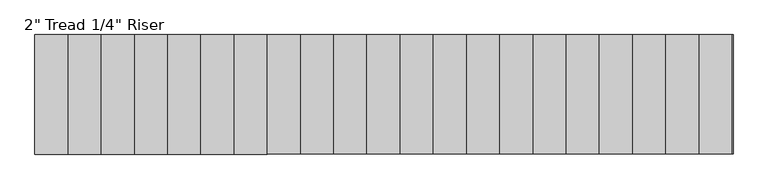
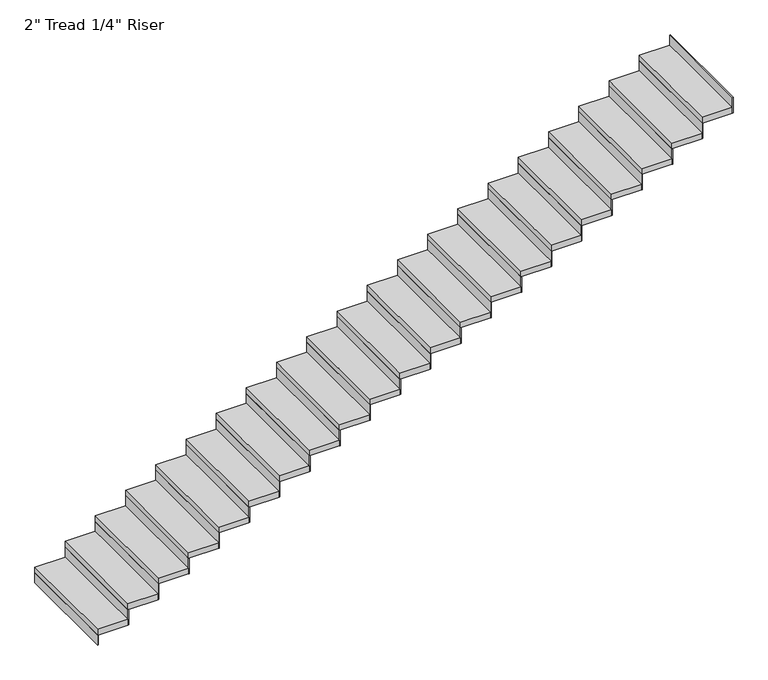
"""IFC4 building model written with IfcOpenShell, lengths in millimetres: stair flight geometry."""

from ifc_helpers import new_model, si_unit, frame, origin, origin_with_axes, place, context, project, spatial, polyline, outline, extrude, source, transform, mapped, element, save


def stair_flight_a4d97b63(model_context):
    return source(origin(), model_context, "Body", "SweptSolid", [
        extrude(outline(polyline([(35788.4072927, -2400.7855758), (35782.0572927, -2400.7855758), (35782.0572927, -1486.3855758), (35788.4072927, -1486.3855758), (35788.4072927, -2400.7855758)])), origin_with_axes(), (0.0, 0.0, 1.0), 87.7454545),
        extrude(outline(polyline([(36036.0572927, -1486.3855758), (36036.0572927, -2400.7855758), (35782.0572927, -2400.7855758), (35782.0572927, -1486.3855758), (36036.0572927, -1486.3855758)])), frame((0.0, 0.0, 87.7454545), z_axis=(0.0, 0.0, 1.0), x_axis=(1.0, 0.0, 0.0)), (0.0, 0.0, 1.0), 50.8),
        extrude(outline(polyline([(36042.4072927, -2400.7855758), (36036.0572927, -2400.7855758), (36036.0572927, -1486.3855758), (36042.4072927, -1486.3855758), (36042.4072927, -2400.7855758)])), frame((0.0, 0.0, 87.7454545), z_axis=(0.0, 0.0, 1.0), x_axis=(1.0, 0.0, 0.0)), (0.0, 0.0, 1.0), 138.5454545),
        extrude(outline(polyline([(36290.0572927, -1486.3855758), (36290.0572927, -2400.7855758), (36036.0572927, -2400.7855758), (36036.0572927, -1486.3855758), (36290.0572927, -1486.3855758)])), frame((0.0, 0.0, 226.2909091), z_axis=(0.0, 0.0, 1.0), x_axis=(1.0, 0.0, 0.0)), (0.0, 0.0, 1.0), 50.8),
        extrude(outline(polyline([(36296.4072927, -2400.7855758), (36290.0572927, -2400.7855758), (36290.0572927, -1486.3855758), (36296.4072927, -1486.3855758), (36296.4072927, -2400.7855758)])), frame((0.0, 0.0, 226.2909091), z_axis=(0.0, 0.0, 1.0), x_axis=(1.0, 0.0, 0.0)), (0.0, 0.0, 1.0), 138.5454545),
        extrude(outline(polyline([(36544.0572927, -1486.3855758), (36544.0572927, -2400.7855758), (36290.0572927, -2400.7855758), (36290.0572927, -1486.3855758), (36544.0572927, -1486.3855758)])), frame((0.0, 0.0, 364.8363636), z_axis=(0.0, 0.0, 1.0), x_axis=(1.0, 0.0, 0.0)), (0.0, 0.0, 1.0), 50.8),
        extrude(outline(polyline([(36550.4072927, -2400.7855758), (36544.0572927, -2400.7855758), (36544.0572927, -1486.3855758), (36550.4072927, -1486.3855758), (36550.4072927, -2400.7855758)])), frame((0.0, 0.0, 364.8363636), z_axis=(0.0, 0.0, 1.0), x_axis=(1.0, 0.0, 0.0)), (0.0, 0.0, 1.0), 138.5454545),
        extrude(outline(polyline([(36798.0572927, -1486.3855758), (36798.0572927, -2400.7855758), (36544.0572927, -2400.7855758), (36544.0572927, -1486.3855758), (36798.0572927, -1486.3855758)])), frame((0.0, 0.0, 503.3818182), z_axis=(0.0, 0.0, 1.0), x_axis=(1.0, 0.0, 0.0)), (0.0, 0.0, 1.0), 50.8),
        extrude(outline(polyline([(36804.4072927, -2400.7855758), (36798.0572927, -2400.7855758), (36798.0572927, -1486.3855758), (36804.4072927, -1486.3855758), (36804.4072927, -2400.7855758)])), frame((0.0, 0.0, 503.3818182), z_axis=(0.0, 0.0, 1.0), x_axis=(1.0, 0.0, 0.0)), (0.0, 0.0, 1.0), 138.5454545),
        extrude(outline(polyline([(37052.0572927, -1486.3855758), (37052.0572927, -2400.7855758), (36798.0572927, -2400.7855758), (36798.0572927, -1486.3855758), (37052.0572927, -1486.3855758)])), frame((0.0, 0.0, 641.9272727), z_axis=(0.0, 0.0, 1.0), x_axis=(1.0, 0.0, 0.0)), (0.0, 0.0, 1.0), 50.8),
        extrude(outline(polyline([(37058.4072927, -2400.7855758), (37052.0572927, -2400.7855758), (37052.0572927, -1486.3855758), (37058.4072927, -1486.3855758), (37058.4072927, -2400.7855758)])), frame((0.0, 0.0, 641.9272727), z_axis=(0.0, 0.0, 1.0), x_axis=(1.0, 0.0, 0.0)), (0.0, 0.0, 1.0), 138.5454545),
        extrude(outline(polyline([(37306.0572927, -1486.3855758), (37306.0572927, -2400.7855758), (37052.0572927, -2400.7855758), (37052.0572927, -1486.3855758), (37306.0572927, -1486.3855758)])), frame((0.0, 0.0, 780.4727273), z_axis=(0.0, 0.0, 1.0), x_axis=(1.0, 0.0, 0.0)), (0.0, 0.0, 1.0), 50.8),
        extrude(outline(polyline([(37312.4072927, -2400.7855758), (37306.0572927, -2400.7855758), (37306.0572927, -1486.3855758), (37312.4072927, -1486.3855758), (37312.4072927, -2400.7855758)])), frame((0.0, 0.0, 780.4727273), z_axis=(0.0, 0.0, 1.0), x_axis=(1.0, 0.0, 0.0)), (0.0, 0.0, 1.0), 138.5454545),
        extrude(outline(polyline([(37560.0572927, -1486.3855758), (37560.0572927, -2400.7855758), (37306.0572927, -2400.7855758), (37306.0572927, -1486.3855758), (37560.0572927, -1486.3855758)])), frame((0.0, 0.0, 919.0181818), z_axis=(0.0, 0.0, 1.0), x_axis=(1.0, 0.0, 0.0)), (0.0, 0.0, 1.0), 50.8),
        extrude(outline(polyline([(37566.4072927, -2400.7855758), (37560.0572927, -2400.7855758), (37560.0572927, -1486.3855758), (37566.4072927, -1486.3855758), (37566.4072927, -2400.7855758)])), frame((0.0, 0.0, 919.0181818), z_axis=(0.0, 0.0, 1.0), x_axis=(1.0, 0.0, 0.0)), (0.0, 0.0, 1.0), 138.5454545),
        extrude(outline(polyline([(37814.0572927, -1486.3855758), (37814.0572927, -2400.7855758), (37560.0572927, -2400.7855758), (37560.0572927, -1486.3855758), (37814.0572927, -1486.3855758)])), frame((0.0, 0.0, 1057.5636364), z_axis=(0.0, 0.0, 1.0), x_axis=(1.0, 0.0, 0.0)), (0.0, 0.0, 1.0), 50.8),
        extrude(outline(polyline([(37820.4072927, -2400.7855758), (37814.0572927, -2400.7855758), (37814.0572927, -1486.3855758), (37820.4072927, -1486.3855758), (37820.4072927, -2400.7855758)])), frame((0.0, 0.0, 1057.5636364), z_axis=(0.0, 0.0, 1.0), x_axis=(1.0, 0.0, 0.0)), (0.0, 0.0, 1.0), 138.5454545),
        extrude(outline(polyline([(38068.0572927, -1486.3855758), (38068.0572927, -2400.7855758), (37814.0572927, -2400.7855758), (37814.0572927, -1486.3855758), (38068.0572927, -1486.3855758)])), frame((0.0, 0.0, 1196.1090909), z_axis=(0.0, 0.0, 1.0), x_axis=(1.0, 0.0, 0.0)), (0.0, 0.0, 1.0), 50.8),
        extrude(outline(polyline([(38074.4072927, -2400.7855758), (38068.0572927, -2400.7855758), (38068.0572927, -1486.3855758), (38074.4072927, -1486.3855758), (38074.4072927, -2400.7855758)])), frame((0.0, 0.0, 1196.1090909), z_axis=(0.0, 0.0, 1.0), x_axis=(1.0, 0.0, 0.0)), (0.0, 0.0, 1.0), 138.5454545),
        extrude(outline(polyline([(38322.0572927, -1486.3855758), (38322.0572927, -2400.7855758), (38068.0572927, -2400.7855758), (38068.0572927, -1486.3855758), (38322.0572927, -1486.3855758)])), frame((0.0, 0.0, 1334.6545455), z_axis=(0.0, 0.0, 1.0), x_axis=(1.0, 0.0, 0.0)), (0.0, 0.0, 1.0), 50.8),
        extrude(outline(polyline([(38328.4072927, -2400.7855758), (38322.0572927, -2400.7855758), (38322.0572927, -1486.3855758), (38328.4072927, -1486.3855758), (38328.4072927, -2400.7855758)])), frame((0.0, 0.0, 1334.6545455), z_axis=(0.0, 0.0, 1.0), x_axis=(1.0, 0.0, 0.0)), (0.0, 0.0, 1.0), 138.5454545),
        extrude(outline(polyline([(38576.0572927, -1486.3855758), (38576.0572927, -2400.7855758), (38322.0572927, -2400.7855758), (38322.0572927, -1486.3855758), (38576.0572927, -1486.3855758)])), frame((0.0, 0.0, 1473.2), z_axis=(0.0, 0.0, 1.0), x_axis=(1.0, 0.0, 0.0)), (0.0, 0.0, 1.0), 50.8),
        extrude(outline(polyline([(38582.4072927, -2400.7855758), (38576.0572927, -2400.7855758), (38576.0572927, -1486.3855758), (38582.4072927, -1486.3855758), (38582.4072927, -2400.7855758)])), frame((0.0, 0.0, 1473.2), z_axis=(0.0, 0.0, 1.0), x_axis=(1.0, 0.0, 0.0)), (0.0, 0.0, 1.0), 138.5454545),
        extrude(outline(polyline([(38830.0572927, -1486.3855758), (38830.0572927, -2400.7855758), (38576.0572927, -2400.7855758), (38576.0572927, -1486.3855758), (38830.0572927, -1486.3855758)])), frame((0.0, 0.0, 1611.7454545), z_axis=(0.0, 0.0, 1.0), x_axis=(1.0, 0.0, 0.0)), (0.0, 0.0, 1.0), 50.8),
        extrude(outline(polyline([(38836.4072927, -2400.7855758), (38830.0572927, -2400.7855758), (38830.0572927, -1486.3855758), (38836.4072927, -1486.3855758), (38836.4072927, -2400.7855758)])), frame((0.0, 0.0, 1611.7454545), z_axis=(0.0, 0.0, 1.0), x_axis=(1.0, 0.0, 0.0)), (0.0, 0.0, 1.0), 138.5454545),
        extrude(outline(polyline([(39084.0572927, -1486.3855758), (39084.0572927, -2400.7855758), (38830.0572927, -2400.7855758), (38830.0572927, -1486.3855758), (39084.0572927, -1486.3855758)])), frame((0.0, 0.0, 1750.2909091), z_axis=(0.0, 0.0, 1.0), x_axis=(1.0, 0.0, 0.0)), (0.0, 0.0, 1.0), 50.8),
        extrude(outline(polyline([(39090.4072927, -2400.7855758), (39084.0572927, -2400.7855758), (39084.0572927, -1486.3855758), (39090.4072927, -1486.3855758), (39090.4072927, -2400.7855758)])), frame((0.0, 0.0, 1750.2909091), z_axis=(0.0, 0.0, 1.0), x_axis=(1.0, 0.0, 0.0)), (0.0, 0.0, 1.0), 138.5454545),
        extrude(outline(polyline([(39338.0572927, -1486.3855758), (39338.0572927, -2400.7855758), (39084.0572927, -2400.7855758), (39084.0572927, -1486.3855758), (39338.0572927, -1486.3855758)])), frame((0.0, 0.0, 1888.8363636), z_axis=(0.0, 0.0, 1.0), x_axis=(1.0, 0.0, 0.0)), (0.0, 0.0, 1.0), 50.8),
        extrude(outline(polyline([(39344.4072927, -2400.7855758), (39338.0572927, -2400.7855758), (39338.0572927, -1486.3855758), (39344.4072927, -1486.3855758), (39344.4072927, -2400.7855758)])), frame((0.0, 0.0, 1888.8363636), z_axis=(0.0, 0.0, 1.0), x_axis=(1.0, 0.0, 0.0)), (0.0, 0.0, 1.0), 138.5454545),
        extrude(outline(polyline([(39592.0572927, -1486.3855758), (39592.0572927, -2400.7855758), (39338.0572927, -2400.7855758), (39338.0572927, -1486.3855758), (39592.0572927, -1486.3855758)])), frame((0.0, 0.0, 2027.3818182), z_axis=(0.0, 0.0, 1.0), x_axis=(1.0, 0.0, 0.0)), (0.0, 0.0, 1.0), 50.8),
        extrude(outline(polyline([(39598.4072927, -2400.7855758), (39592.0572927, -2400.7855758), (39592.0572927, -1486.3855758), (39598.4072927, -1486.3855758), (39598.4072927, -2400.7855758)])), frame((0.0, 0.0, 2027.3818182), z_axis=(0.0, 0.0, 1.0), x_axis=(1.0, 0.0, 0.0)), (0.0, 0.0, 1.0), 138.5454545),
        extrude(outline(polyline([(39846.0572927, -1486.3855758), (39846.0572927, -2400.7855758), (39592.0572927, -2400.7855758), (39592.0572927, -1486.3855758), (39846.0572927, -1486.3855758)])), frame((0.0, 0.0, 2165.9272727), z_axis=(0.0, 0.0, 1.0), x_axis=(1.0, 0.0, 0.0)), (0.0, 0.0, 1.0), 50.8),
        extrude(outline(polyline([(39852.4072927, -2400.7855758), (39846.0572927, -2400.7855758), (39846.0572927, -1486.3855758), (39852.4072927, -1486.3855758), (39852.4072927, -2400.7855758)])), frame((0.0, 0.0, 2165.9272727), z_axis=(0.0, 0.0, 1.0), x_axis=(1.0, 0.0, 0.0)), (0.0, 0.0, 1.0), 138.5454545),
        extrude(outline(polyline([(40100.0572927, -1486.3855758), (40100.0572927, -2400.7855758), (39846.0572927, -2400.7855758), (39846.0572927, -1486.3855758), (40100.0572927, -1486.3855758)])), frame((0.0, 0.0, 2304.4727273), z_axis=(0.0, 0.0, 1.0), x_axis=(1.0, 0.0, 0.0)), (0.0, 0.0, 1.0), 50.8),
        extrude(outline(polyline([(40106.4072927, -2400.7855758), (40100.0572927, -2400.7855758), (40100.0572927, -1486.3855758), (40106.4072927, -1486.3855758), (40106.4072927, -2400.7855758)])), frame((0.0, 0.0, 2304.4727273), z_axis=(0.0, 0.0, 1.0), x_axis=(1.0, 0.0, 0.0)), (0.0, 0.0, 1.0), 138.5454545),
        extrude(outline(polyline([(40354.0572927, -1486.3855758), (40354.0572927, -2400.7855758), (40100.0572927, -2400.7855758), (40100.0572927, -1486.3855758), (40354.0572927, -1486.3855758)])), frame((0.0, 0.0, 2443.0181818), z_axis=(0.0, 0.0, 1.0), x_axis=(1.0, 0.0, 0.0)), (0.0, 0.0, 1.0), 50.8),
        extrude(outline(polyline([(40360.4072927, -2400.7855758), (40354.0572927, -2400.7855758), (40354.0572927, -1486.3855758), (40360.4072927, -1486.3855758), (40360.4072927, -2400.7855758)])), frame((0.0, 0.0, 2443.0181818), z_axis=(0.0, 0.0, 1.0), x_axis=(1.0, 0.0, 0.0)), (0.0, 0.0, 1.0), 138.5454545),
        extrude(outline(polyline([(40608.0572927, -1486.3855758), (40608.0572927, -2400.7855758), (40354.0572927, -2400.7855758), (40354.0572927, -1486.3855758), (40608.0572927, -1486.3855758)])), frame((0.0, 0.0, 2581.5636364), z_axis=(0.0, 0.0, 1.0), x_axis=(1.0, 0.0, 0.0)), (0.0, 0.0, 1.0), 50.8),
        extrude(outline(polyline([(40614.4072927, -2400.7855758), (40608.0572927, -2400.7855758), (40608.0572927, -1486.3855758), (40614.4072927, -1486.3855758), (40614.4072927, -2400.7855758)])), frame((0.0, 0.0, 2581.5636364), z_axis=(0.0, 0.0, 1.0), x_axis=(1.0, 0.0, 0.0)), (0.0, 0.0, 1.0), 138.5454545),
        extrude(outline(polyline([(40862.0572927, -1486.3855758), (40862.0572927, -2400.7855758), (40608.0572927, -2400.7855758), (40608.0572927, -1486.3855758), (40862.0572927, -1486.3855758)])), frame((0.0, 0.0, 2720.1090909), z_axis=(0.0, 0.0, 1.0), x_axis=(1.0, 0.0, 0.0)), (0.0, 0.0, 1.0), 50.8),
        extrude(outline(polyline([(40868.4072927, -2400.7855758), (40862.0572927, -2400.7855758), (40862.0572927, -1486.3855758), (40868.4072927, -1486.3855758), (40868.4072927, -2400.7855758)])), frame((0.0, 0.0, 2720.1090909), z_axis=(0.0, 0.0, 1.0), x_axis=(1.0, 0.0, 0.0)), (0.0, 0.0, 1.0), 138.5454545),
        extrude(outline(polyline([(41122.4072927, -2400.7855758), (41116.0572927, -2400.7855758), (41116.0572927, -1486.3855758), (41122.4072927, -1486.3855758), (41122.4072927, -2400.7855758)])), frame((0.0, 0.0, 2858.6545455), z_axis=(0.0, 0.0, 1.0), x_axis=(1.0, 0.0, 0.0)), (0.0, 0.0, 1.0), 138.5454545),
        extrude(outline(polyline([(41116.0572927, -1486.3855758), (41116.0572927, -2400.7855758), (40862.0572927, -2400.7855758), (40862.0572927, -1486.3855758), (41116.0572927, -1486.3855758)])), frame((0.0, 0.0, 2858.6545455), z_axis=(0.0, 0.0, 1.0), x_axis=(1.0, 0.0, 0.0)), (0.0, 0.0, 1.0), 50.8),
    ])


if __name__ == "__main__":
    model = new_model("IFC4")
    model_context = context("Model", 3, world=origin())
    ifc_project = project(units=[si_unit("LENGTHUNIT", "METRE", prefix="MILLI")], contexts=[model_context])
    site = spatial("IfcSite", under=ifc_project)
    building = spatial("IfcBuilding", under=site)
    placement = place(None, origin())
    stair_flight_shape = stair_flight_a4d97b63(model_context)
    element("IfcStairFlight", 1, ObjectType="2\" Tread 1/4\" Riser", at=placement, inside=building, context=model_context, shape_type="MappedRepresentation", body=[
        mapped(stair_flight_shape, transform((0.0, 0.0, 0.0), x_axis=(1.0, 0.0, 0.0), y_axis=(0.0, 1.0, 0.0), z_axis=(0.0, 0.0, 1.0))),
    ])
    save(model, "model.ifc")
